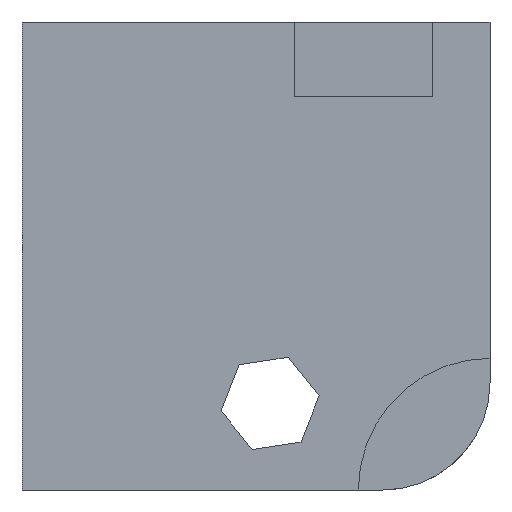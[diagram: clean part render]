
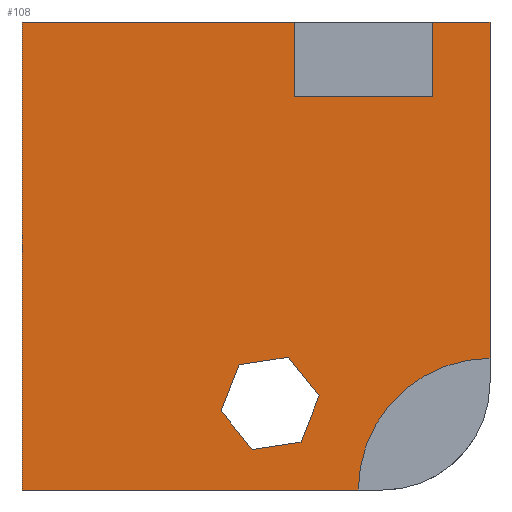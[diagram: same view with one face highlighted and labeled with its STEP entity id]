
A CAD part, left-side view. The second image highlights one B-rep face of the part: STEP entity #108.
In plain terms, the highlighted planar face has unit normal (-1, 0, 0).
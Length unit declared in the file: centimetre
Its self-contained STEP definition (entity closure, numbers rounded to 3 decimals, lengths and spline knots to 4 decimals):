
#15 = CARTESIAN_POINT ( 'NONE',  ( 0., 535.8516, 267.8129 ) ) ;
#16 = CARTESIAN_POINT ( 'NONE',  ( 0., 431.2196, 283.6233 ) ) ;
#18 = DIRECTION ( 'NONE',  ( 0., 0., -1. ) ) ;
#25 = LINE ( 'NONE', #110, #620 ) ;
#26 = CARTESIAN_POINT ( 'NONE',  ( 0., 121.8296, 1000. ) ) ;
#28 = CARTESIAN_POINT ( 'NONE',  ( 0., 1000., 1000. ) ) ;
#41 = VECTOR ( 'NONE', #192, 100. ) ;
#43 = LINE ( 'NONE', #336, #896 ) ;
#44 = VECTOR ( 'NONE', #325, 100. ) ;
#46 = DIRECTION ( 'NONE',  ( 0., 0., -1. ) ) ;
#49 = ORIENTED_EDGE ( 'NONE', *, *, #923, .T. ) ;
#54 = VERTEX_POINT ( 'NONE', #671 ) ;
#60 = LINE ( 'NONE', #278, #615 ) ;
#69 = LINE ( 'NONE', #630, #862 ) ;
#90 = ORIENTED_EDGE ( 'NONE', *, *, #683, .T. ) ;
#105 = CARTESIAN_POINT ( 'NONE',  ( 0., 0., 281.3246 ) ) ;
#106 = VECTOR ( 'NONE', #877, 100. ) ;
#108 = ADVANCED_FACE ( 'NONE', ( #912, #112 ), #258, .F. ) ;
#110 = CARTESIAN_POINT ( 'NONE',  ( 0., 1000., 1000. ) ) ;
#112 = FACE_OUTER_BOUND ( 'NONE', #879, .T. ) ;
#143 = ORIENTED_EDGE ( 'NONE', *, *, #248, .F. ) ;
#144 = EDGE_CURVE ( 'NONE', #736, #693, #339, .T. ) ;
#155 = VECTOR ( 'NONE', #633, 100. ) ;
#159 = VERTEX_POINT ( 'NONE', #464 ) ;
#192 = DIRECTION ( 'NONE',  ( 0., -0.365, 0.931 ) ) ;
#193 = VERTEX_POINT ( 'NONE', #105 ) ;
#211 = VERTEX_POINT ( 'NONE', #28 ) ;
#220 = CARTESIAN_POINT ( 'NONE',  ( 0., 417.7308, 1000. ) ) ;
#223 = CARTESIAN_POINT ( 'NONE',  ( 0., 365.2113, 200.9146 ) ) ;
#224 = ORIENTED_EDGE ( 'NONE', *, *, #144, .T. ) ;
#226 = DIRECTION ( 'NONE',  ( 0., -0.989, 0.149 ) ) ;
#233 = LINE ( 'NONE', #674, #288 ) ;
#235 = LINE ( 'NONE', #540, #585 ) ;
#248 = EDGE_CURVE ( 'NONE', #211, #460, #235, .T. ) ;
#258 = PLANE ( 'NONE',  #401 ) ;
#263 = DIRECTION ( 'NONE',  ( 1., 0., 0. ) ) ;
#278 = CARTESIAN_POINT ( 'NONE',  ( 0., 0., 1000. ) ) ;
#281 = EDGE_LOOP ( 'NONE', ( #772, #49, #90, #224, #835, #747 ) ) ;
#288 = VECTOR ( 'NONE', #758, 100. ) ;
#293 = CARTESIAN_POINT ( 'NONE',  ( 0., 431.2196, 283.6233 ) ) ;
#303 = CARTESIAN_POINT ( 'NONE',  ( 0., 508.4671, 86.5849 ) ) ;
#309 = DIRECTION ( 'NONE',  ( 0., -1., 0. ) ) ;
#312 = VECTOR ( 'NONE', #595, 100. ) ;
#325 = DIRECTION ( 'NONE',  ( 0., 0.365, -0.931 ) ) ;
#336 = CARTESIAN_POINT ( 'NONE',  ( 0., 1000., 0. ) ) ;
#339 = LINE ( 'NONE', #555, #41 ) ;
#344 = ORIENTED_EDGE ( 'NONE', *, *, #449, .F. ) ;
#347 = CARTESIAN_POINT ( 'NONE',  ( 0., 121.8296, 840.5575 ) ) ;
#395 = CARTESIAN_POINT ( 'NONE',  ( 0., 508.4671, 86.5849 ) ) ;
#401 = AXIS2_PLACEMENT_3D ( 'NONE', #775, #263, #46 ) ;
#403 = EDGE_CURVE ( 'NONE', #501, #578, #69, .T. ) ;
#408 = CARTESIAN_POINT ( 'NONE',  ( 0., 0., 0. ) ) ;
#417 = EDGE_CURVE ( 'NONE', #193, #717, #730, .T. ) ;
#418 = VERTEX_POINT ( 'NONE', #16 ) ;
#419 = ORIENTED_EDGE ( 'NONE', *, *, #701, .T. ) ;
#423 = ORIENTED_EDGE ( 'NONE', *, *, #863, .T. ) ;
#441 = ORIENTED_EDGE ( 'NONE', *, *, #403, .F. ) ;
#449 = EDGE_CURVE ( 'NONE', #460, #159, #507, .T. ) ;
#460 = VERTEX_POINT ( 'NONE', #220 ) ;
#461 = DIRECTION ( 'NONE',  ( 0., 0.624, 0.782 ) ) ;
#464 = CARTESIAN_POINT ( 'NONE',  ( 0., 417.7308, 840.5575 ) ) ;
#472 = ORIENTED_EDGE ( 'NONE', *, *, #883, .F. ) ;
#473 = LINE ( 'NONE', #395, #786 ) ;
#488 = VERTEX_POINT ( 'NONE', #223 ) ;
#491 = ORIENTED_EDGE ( 'NONE', *, *, #937, .F. ) ;
#492 = ORIENTED_EDGE ( 'NONE', *, *, #417, .F. ) ;
#501 = VERTEX_POINT ( 'NONE', #659 ) ;
#505 = LINE ( 'NONE', #803, #864 ) ;
#507 = LINE ( 'NONE', #583, #106 ) ;
#517 = EDGE_CURVE ( 'NONE', #418, #488, #672, .T. ) ;
#523 = AXIS2_PLACEMENT_3D ( 'NONE', #408, #587, #809 ) ;
#531 = EDGE_CURVE ( 'NONE', #693, #418, #505, .T. ) ;
#537 = CARTESIAN_POINT ( 'NONE',  ( 0., 281.3246, 0. ) ) ;
#540 = CARTESIAN_POINT ( 'NONE',  ( 0., 1000., 1000. ) ) ;
#550 = DIRECTION ( 'NONE',  ( 0., -1., 0. ) ) ;
#555 = CARTESIAN_POINT ( 'NONE',  ( 0., 574.4753, 169.2937 ) ) ;
#566 = DIRECTION ( 'NONE',  ( 0., 0., -1. ) ) ;
#568 = ORIENTED_EDGE ( 'NONE', *, *, #715, .F. ) ;
#578 = VERTEX_POINT ( 'NONE', #26 ) ;
#583 = CARTESIAN_POINT ( 'NONE',  ( 0., 417.7308, 840.5575 ) ) ;
#585 = VECTOR ( 'NONE', #309, 100. ) ;
#587 = DIRECTION ( 'NONE',  ( -1., 0., 0. ) ) ;
#595 = DIRECTION ( 'NONE',  ( 0., -0.624, -0.782 ) ) ;
#604 = CARTESIAN_POINT ( 'NONE',  ( 0., 0., 1000. ) ) ;
#615 = VECTOR ( 'NONE', #566, 100. ) ;
#620 = VECTOR ( 'NONE', #18, 100. ) ;
#622 = VERTEX_POINT ( 'NONE', #604 ) ;
#629 = LINE ( 'NONE', #347, #155 ) ;
#630 = CARTESIAN_POINT ( 'NONE',  ( 0., 121.8296, 840.5575 ) ) ;
#633 = DIRECTION ( 'NONE',  ( 0., -1., 0. ) ) ;
#648 = DIRECTION ( 'NONE',  ( 0., 0., 1. ) ) ;
#659 = CARTESIAN_POINT ( 'NONE',  ( 0., 121.8296, 840.5575 ) ) ;
#671 = CARTESIAN_POINT ( 'NONE',  ( 0., 403.8351, 102.3954 ) ) ;
#672 = LINE ( 'NONE', #293, #312 ) ;
#674 = CARTESIAN_POINT ( 'NONE',  ( 0., 1000., 1000. ) ) ;
#680 = VECTOR ( 'NONE', #932, 100. ) ;
#683 = EDGE_CURVE ( 'NONE', #707, #736, #473, .T. ) ;
#693 = VERTEX_POINT ( 'NONE', #15 ) ;
#701 = EDGE_CURVE ( 'NONE', #211, #857, #25, .T. ) ;
#705 = CARTESIAN_POINT ( 'NONE',  ( 0., 1000., 0. ) ) ;
#707 = VERTEX_POINT ( 'NONE', #303 ) ;
#715 = EDGE_CURVE ( 'NONE', #578, #622, #233, .T. ) ;
#717 = VERTEX_POINT ( 'NONE', #537 ) ;
#724 = EDGE_CURVE ( 'NONE', #488, #54, #898, .T. ) ;
#730 = CIRCLE ( 'NONE', #523, 281.3246 ) ;
#736 = VERTEX_POINT ( 'NONE', #813 ) ;
#747 = ORIENTED_EDGE ( 'NONE', *, *, #517, .T. ) ;
#758 = DIRECTION ( 'NONE',  ( 0., -1., 0. ) ) ;
#772 = ORIENTED_EDGE ( 'NONE', *, *, #724, .T. ) ;
#775 = CARTESIAN_POINT ( 'NONE',  ( 0., 1000., 1000. ) ) ;
#786 = VECTOR ( 'NONE', #461, 100. ) ;
#796 = CARTESIAN_POINT ( 'NONE',  ( 0., 403.8351, 102.3954 ) ) ;
#803 = CARTESIAN_POINT ( 'NONE',  ( 0., 535.8516, 267.8129 ) ) ;
#809 = DIRECTION ( 'NONE',  ( 0., 0., 1. ) ) ;
#813 = CARTESIAN_POINT ( 'NONE',  ( 0., 574.4753, 169.2937 ) ) ;
#832 = CARTESIAN_POINT ( 'NONE',  ( 0., 365.2113, 200.9146 ) ) ;
#835 = ORIENTED_EDGE ( 'NONE', *, *, #531, .T. ) ;
#857 = VERTEX_POINT ( 'NONE', #705 ) ;
#862 = VECTOR ( 'NONE', #648, 100. ) ;
#863 = EDGE_CURVE ( 'NONE', #857, #717, #43, .T. ) ;
#864 = VECTOR ( 'NONE', #226, 100. ) ;
#877 = DIRECTION ( 'NONE',  ( 0., 0., -1. ) ) ;
#879 = EDGE_LOOP ( 'NONE', ( #423, #492, #491, #568, #441, #472, #344, #143, #419 ) ) ;
#883 = EDGE_CURVE ( 'NONE', #159, #501, #629, .T. ) ;
#896 = VECTOR ( 'NONE', #550, 100. ) ;
#898 = LINE ( 'NONE', #832, #44 ) ;
#912 = FACE_BOUND ( 'NONE', #281, .T. ) ;
#923 = EDGE_CURVE ( 'NONE', #54, #707, #928, .T. ) ;
#928 = LINE ( 'NONE', #796, #680 ) ;
#932 = DIRECTION ( 'NONE',  ( 0., 0.989, -0.149 ) ) ;
#937 = EDGE_CURVE ( 'NONE', #622, #193, #60, .T. ) ;
